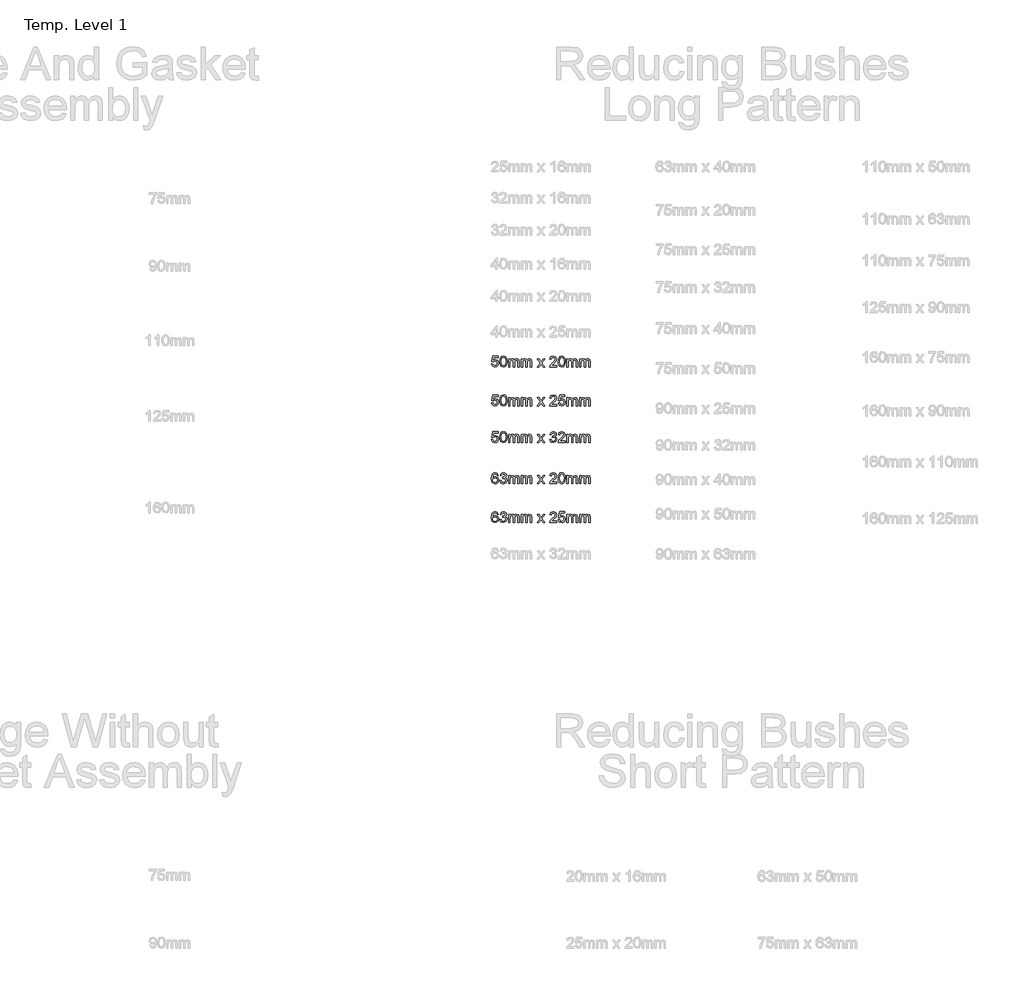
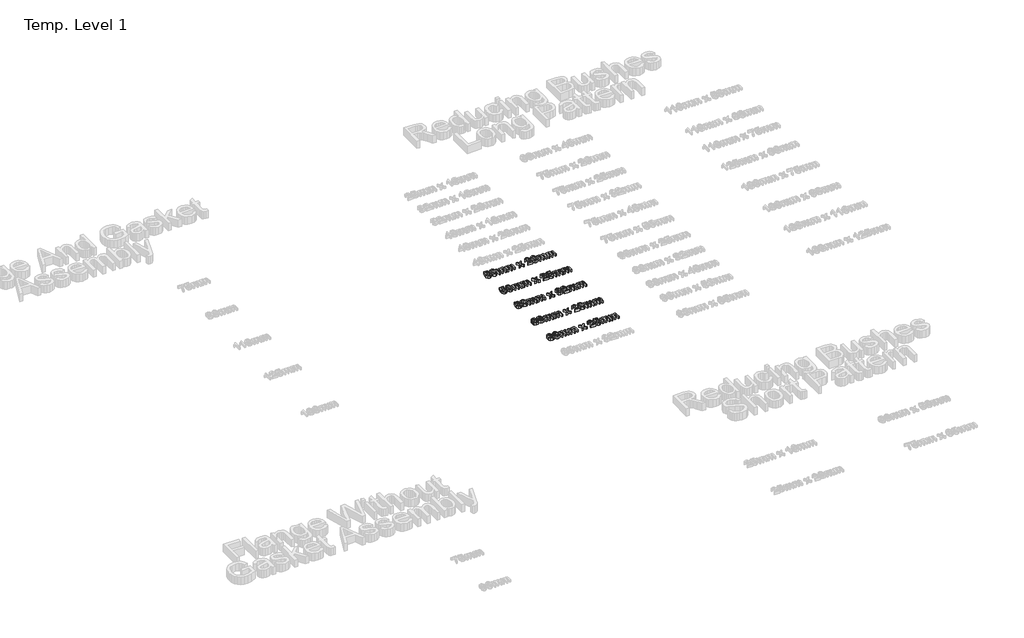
# One storey, part 36 of 62: 5 proxies.
"""IFC4 building model written with IfcOpenShell, lengths in millimetres."""

from ifc_helpers import new_model, si_unit, origin, origin_with_axes, place, context, project, spatial, polyline, outline, extrude, element, save

model = new_model("IFC4")

# Units and contexts
model_context = context("Model", 3, world=origin())
ifc_project = project(units=[si_unit("LENGTHUNIT", "METRE", prefix="MILLI")], contexts=[model_context])

# Site, building, storey
site = spatial("IfcSite", under=ifc_project)
building = spatial("IfcBuilding", under=site)
storey = spatial("IfcBuildingStorey", under=building, Name="Temp. Level 1", Elevation=0.0)

# Proxies
placement = place(None, origin())
element("IfcBuildingElementProxy", 1, Name="50mm Arial", ObjectType="50mm Arial", at=placement, inside=storey, context=model_context, shape_type="SweptSolid", body=[
    extrude(outline(polyline([(23339.3793416, -5257.447281), (23345.5331878, -5256.6780503), (23348.6341493, -5263.0181945), (23355.0644378, -5265.1395887), (23362.7807839, -5262.1888676), (23365.5331878, -5254.3583387), (23362.9550628, -5247.0506464), (23355.1605916, -5244.370358), (23349.7579474, -5245.4400695), (23346.3024185, -5248.2165118), (23340.1485724, -5247.447281), (23345.5331878, -5222.0626657), (23369.3793416, -5222.0626657), (23369.3793416, -5228.2165118), (23350.5091493, -5228.2165118), (23347.8769378, -5241.7742041), (23356.8793416, -5238.2165118), (23367.4021782, -5242.6275695), (23371.6870339, -5253.9737233), (23367.8288609, -5265.3919926), (23362.2879955, -5269.8180743), (23355.0403993, -5271.2934349), (23344.1810243, -5267.5013676), (23339.3793416, -5257.447281)])), origin_with_axes(), (0.0, 0.0, 1.0), 15.0),
    extrude(outline(polyline([(23377.0716493, -5246.3054541), (23378.8805435, -5232.1407907), (23384.2531397, -5223.9737233), (23393.2254955, -5221.2934349), (23400.4129955, -5222.8799733), (23405.3769378, -5227.4532907), (23408.2615532, -5234.7369445), (23409.3793416, -5246.3054541), (23407.5884762, -5260.4100214), (23402.2339089, -5268.5951176), (23393.2254955, -5271.2934349), (23381.9754955, -5266.6059349), (23378.2976109, -5258.2796128), (23377.0716493, -5246.3054541)]), holes=[polyline([(23383.2254955, -5246.2934349), (23386.1101109, -5261.5758868), (23393.2254955, -5265.1395887), (23400.3408801, -5261.5638676), (23403.2254955, -5246.2934349), (23400.4370339, -5231.1852618), (23393.1533801, -5227.447281), (23386.2062647, -5230.7405503), (23383.2254955, -5246.2934349)])]), origin_with_axes(), (0.0, 0.0, 1.0), 15.0),
    extrude(outline(polyline([(23416.3024185, -5270.5242041), (23416.3024185, -5234.370358), (23422.4562647, -5234.370358), (23422.4562647, -5240.3198772), (23426.6870339, -5235.4460791), (23432.7086685, -5233.6011272), (23438.8745339, -5235.4821368), (23442.263957, -5240.7525695), (23447.0656397, -5235.3889878), (23453.1293416, -5233.6011272), (23461.1762166, -5236.5758868), (23463.9947262, -5245.7405503), (23463.9947262, -5270.5242041), (23457.8408801, -5270.5242041), (23457.8408801, -5248.384781), (23457.2699666, -5243.2465599), (23455.2026589, -5240.7165118), (23451.6870339, -5239.7549733), (23445.6353512, -5242.2189157), (23443.2254955, -5250.1155503), (23443.2254955, -5270.5242041), (23437.0716493, -5270.5242041), (23437.0716493, -5247.6996849), (23435.6473705, -5241.7381464), (23430.9778993, -5239.7549733), (23426.4226109, -5241.0770887), (23423.3937647, -5244.947281), (23422.4562647, -5252.291031), (23422.4562647, -5270.5242041), (23416.3024185, -5270.5242041)])), origin_with_axes(), (0.0, 0.0, 1.0), 15.0),
    extrude(outline(polyline([(23473.2254955, -5270.5242041), (23473.2254955, -5234.370358), (23479.3793416, -5234.370358), (23479.3793416, -5240.3198772), (23483.6101109, -5235.4460791), (23489.6317455, -5233.6011272), (23495.7976109, -5235.4821368), (23499.1870339, -5240.7525695), (23503.9887166, -5235.3889878), (23510.0524185, -5233.6011272), (23518.0992935, -5236.5758868), (23520.9178032, -5245.7405503), (23520.9178032, -5270.5242041), (23514.763957, -5270.5242041), (23514.763957, -5248.384781), (23514.1930435, -5243.2465599), (23512.1257359, -5240.7165118), (23508.6101109, -5239.7549733), (23502.5584282, -5242.2189157), (23500.1485724, -5250.1155503), (23500.1485724, -5270.5242041), (23493.9947262, -5270.5242041), (23493.9947262, -5247.6996849), (23492.5704474, -5241.7381464), (23487.9009762, -5239.7549733), (23483.3456878, -5241.0770887), (23480.3168416, -5244.947281), (23479.3793416, -5252.291031), (23479.3793416, -5270.5242041), (23473.2254955, -5270.5242041)])), origin_with_axes(), (0.0, 0.0, 1.0), 15.0),
    extrude(outline(polyline([(23545.5331878, -5270.5242041), (23558.6822262, -5252.3511272), (23546.3024185, -5234.370358), (23553.7062647, -5234.370358), (23559.6798224, -5243.0242041), (23562.4682839, -5247.1107426), (23564.8841493, -5243.7693964), (23571.6870339, -5234.370358), (23579.0908801, -5234.370358), (23566.0860724, -5252.3511272), (23578.6101109, -5270.5242041), (23571.2062647, -5270.5242041), (23563.670207, -5259.5987233), (23562.2879955, -5257.603531), (23552.9370339, -5270.5242041), (23545.5331878, -5270.5242041)])), origin_with_axes(), (0.0, 0.0, 1.0), 15.0),
    extrude(outline(polyline([(23633.2254955, -5264.370358), (23633.2254955, -5270.5242041), (23600.9178032, -5270.5242041), (23601.5788609, -5266.2814157), (23605.3168416, -5259.7489637), (23613.0211685, -5252.6155503), (23623.6461685, -5242.3631464), (23626.3024185, -5235.3919926), (23623.7964089, -5229.7489637), (23617.2519378, -5227.447281), (23610.4310243, -5229.6948772), (23607.8408801, -5235.9088195), (23601.6870339, -5235.1395887), (23606.404582, -5224.839108), (23617.3841493, -5221.2934349), (23628.3997743, -5225.2357426), (23632.4562647, -5235.0193964), (23631.3625147, -5240.854733), (23627.7266974, -5246.8883868), (23618.9105916, -5255.3198772), (23611.8312647, -5261.2393483), (23609.0548224, -5264.370358), (23633.2254955, -5264.370358)])), origin_with_axes(), (0.0, 0.0, 1.0), 15.0),
    extrude(outline(polyline([(23639.3793416, -5246.3054541), (23641.1882359, -5232.1407907), (23646.560832, -5223.9737233), (23655.5331878, -5221.2934349), (23662.7206878, -5222.8799733), (23667.6846301, -5227.4532907), (23670.5692455, -5234.7369445), (23671.6870339, -5246.3054541), (23669.8961685, -5260.4100214), (23664.5416012, -5268.5951176), (23655.5331878, -5271.2934349), (23644.2831878, -5266.6059349), (23640.6053032, -5258.2796128), (23639.3793416, -5246.3054541)]), holes=[polyline([(23645.5331878, -5246.2934349), (23648.4178032, -5261.5758868), (23655.5331878, -5265.1395887), (23662.6485724, -5261.5638676), (23665.5331878, -5246.2934349), (23662.7447262, -5231.1852618), (23655.4610724, -5227.447281), (23648.513957, -5230.7405503), (23645.5331878, -5246.2934349)])]), origin_with_axes(), (0.0, 0.0, 1.0), 15.0),
    extrude(outline(polyline([(23678.6101109, -5270.5242041), (23678.6101109, -5234.370358), (23684.763957, -5234.370358), (23684.763957, -5240.3198772), (23688.9947262, -5235.4460791), (23695.0163609, -5233.6011272), (23701.1822262, -5235.4821368), (23704.5716493, -5240.7525695), (23709.373332, -5235.3889878), (23715.4370339, -5233.6011272), (23723.4839089, -5236.5758868), (23726.3024185, -5245.7405503), (23726.3024185, -5270.5242041), (23720.1485724, -5270.5242041), (23720.1485724, -5248.384781), (23719.5776589, -5243.2465599), (23717.5103512, -5240.7165118), (23713.9947262, -5239.7549733), (23707.9430435, -5242.2189157), (23705.5331878, -5250.1155503), (23705.5331878, -5270.5242041), (23699.3793416, -5270.5242041), (23699.3793416, -5247.6996849), (23697.9550628, -5241.7381464), (23693.2855916, -5239.7549733), (23688.7303032, -5241.0770887), (23685.701457, -5244.947281), (23684.763957, -5252.291031), (23684.763957, -5270.5242041), (23678.6101109, -5270.5242041)])), origin_with_axes(), (0.0, 0.0, 1.0), 15.0),
    extrude(outline(polyline([(23735.5331878, -5270.5242041), (23735.5331878, -5234.370358), (23741.6870339, -5234.370358), (23741.6870339, -5240.3198772), (23745.9178032, -5235.4460791), (23751.9394378, -5233.6011272), (23758.1053032, -5235.4821368), (23761.4947262, -5240.7525695), (23766.2964089, -5235.3889878), (23772.3601109, -5233.6011272), (23780.4069859, -5236.5758868), (23783.2254955, -5245.7405503), (23783.2254955, -5270.5242041), (23777.0716493, -5270.5242041), (23777.0716493, -5248.384781), (23776.5007359, -5243.2465599), (23774.4334282, -5240.7165118), (23770.9178032, -5239.7549733), (23764.8661205, -5242.2189157), (23762.4562647, -5250.1155503), (23762.4562647, -5270.5242041), (23756.3024185, -5270.5242041), (23756.3024185, -5247.6996849), (23754.8781397, -5241.7381464), (23750.2086685, -5239.7549733), (23745.6533801, -5241.0770887), (23742.6245339, -5244.947281), (23741.6870339, -5252.291031), (23741.6870339, -5270.5242041), (23735.5331878, -5270.5242041)])), origin_with_axes(), (0.0, 0.0, 1.0), 15.0),
])
element("IfcBuildingElementProxy", 2, Name="50mm Arial", ObjectType="50mm Arial", at=placement, inside=storey, context=model_context, shape_type="SweptSolid", body=[
    extrude(outline(polyline([(23339.3793416, -5432.447281), (23345.5331878, -5431.6780503), (23348.6341493, -5438.0181945), (23355.0644378, -5440.1395887), (23362.7807839, -5437.1888676), (23365.5331878, -5429.3583387), (23362.9550628, -5422.0506464), (23355.1605916, -5419.370358), (23349.7579474, -5420.4400695), (23346.3024185, -5423.2165118), (23340.1485724, -5422.447281), (23345.5331878, -5397.0626657), (23369.3793416, -5397.0626657), (23369.3793416, -5403.2165118), (23350.5091493, -5403.2165118), (23347.8769378, -5416.7742041), (23356.8793416, -5413.2165118), (23367.4021782, -5417.6275695), (23371.6870339, -5428.9737233), (23367.8288609, -5440.3919926), (23362.2879955, -5444.8180743), (23355.0403993, -5446.2934349), (23344.1810243, -5442.5013676), (23339.3793416, -5432.447281)])), origin_with_axes(), (0.0, 0.0, 1.0), 15.0),
    extrude(outline(polyline([(23377.0716493, -5421.3054541), (23378.8805435, -5407.1407907), (23384.2531397, -5398.9737233), (23393.2254955, -5396.2934349), (23400.4129955, -5397.8799733), (23405.3769378, -5402.4532907), (23408.2615532, -5409.7369445), (23409.3793416, -5421.3054541), (23407.5884762, -5435.4100214), (23402.2339089, -5443.5951176), (23393.2254955, -5446.2934349), (23381.9754955, -5441.6059349), (23378.2976109, -5433.2796128), (23377.0716493, -5421.3054541)]), holes=[polyline([(23383.2254955, -5421.2934349), (23386.1101109, -5436.5758868), (23393.2254955, -5440.1395887), (23400.3408801, -5436.5638676), (23403.2254955, -5421.2934349), (23400.4370339, -5406.1852618), (23393.1533801, -5402.447281), (23386.2062647, -5405.7405503), (23383.2254955, -5421.2934349)])]), origin_with_axes(), (0.0, 0.0, 1.0), 15.0),
    extrude(outline(polyline([(23416.3024185, -5445.5242041), (23416.3024185, -5409.370358), (23422.4562647, -5409.370358), (23422.4562647, -5415.3198772), (23426.6870339, -5410.4460791), (23432.7086685, -5408.6011272), (23438.8745339, -5410.4821368), (23442.263957, -5415.7525695), (23447.0656397, -5410.3889878), (23453.1293416, -5408.6011272), (23461.1762166, -5411.5758868), (23463.9947262, -5420.7405503), (23463.9947262, -5445.5242041), (23457.8408801, -5445.5242041), (23457.8408801, -5423.384781), (23457.2699666, -5418.2465599), (23455.2026589, -5415.7165118), (23451.6870339, -5414.7549733), (23445.6353512, -5417.2189157), (23443.2254955, -5425.1155503), (23443.2254955, -5445.5242041), (23437.0716493, -5445.5242041), (23437.0716493, -5422.6996849), (23435.6473705, -5416.7381464), (23430.9778993, -5414.7549733), (23426.4226109, -5416.0770887), (23423.3937647, -5419.947281), (23422.4562647, -5427.291031), (23422.4562647, -5445.5242041), (23416.3024185, -5445.5242041)])), origin_with_axes(), (0.0, 0.0, 1.0), 15.0),
    extrude(outline(polyline([(23473.2254955, -5445.5242041), (23473.2254955, -5409.370358), (23479.3793416, -5409.370358), (23479.3793416, -5415.3198772), (23483.6101109, -5410.4460791), (23489.6317455, -5408.6011272), (23495.7976109, -5410.4821368), (23499.1870339, -5415.7525695), (23503.9887166, -5410.3889878), (23510.0524185, -5408.6011272), (23518.0992935, -5411.5758868), (23520.9178032, -5420.7405503), (23520.9178032, -5445.5242041), (23514.763957, -5445.5242041), (23514.763957, -5423.384781), (23514.1930435, -5418.2465599), (23512.1257359, -5415.7165118), (23508.6101109, -5414.7549733), (23502.5584282, -5417.2189157), (23500.1485724, -5425.1155503), (23500.1485724, -5445.5242041), (23493.9947262, -5445.5242041), (23493.9947262, -5422.6996849), (23492.5704474, -5416.7381464), (23487.9009762, -5414.7549733), (23483.3456878, -5416.0770887), (23480.3168416, -5419.947281), (23479.3793416, -5427.291031), (23479.3793416, -5445.5242041), (23473.2254955, -5445.5242041)])), origin_with_axes(), (0.0, 0.0, 1.0), 15.0),
    extrude(outline(polyline([(23545.5331878, -5445.5242041), (23558.6822262, -5427.3511272), (23546.3024185, -5409.370358), (23553.7062647, -5409.370358), (23559.6798224, -5418.0242041), (23562.4682839, -5422.1107426), (23564.8841493, -5418.7693964), (23571.6870339, -5409.370358), (23579.0908801, -5409.370358), (23566.0860724, -5427.3511272), (23578.6101109, -5445.5242041), (23571.2062647, -5445.5242041), (23563.670207, -5434.5987233), (23562.2879955, -5432.603531), (23552.9370339, -5445.5242041), (23545.5331878, -5445.5242041)])), origin_with_axes(), (0.0, 0.0, 1.0), 15.0),
    extrude(outline(polyline([(23633.2254955, -5439.370358), (23633.2254955, -5445.5242041), (23600.9178032, -5445.5242041), (23601.5788609, -5441.2814157), (23605.3168416, -5434.7489637), (23613.0211685, -5427.6155503), (23623.6461685, -5417.3631464), (23626.3024185, -5410.3919926), (23623.7964089, -5404.7489637), (23617.2519378, -5402.447281), (23610.4310243, -5404.6948772), (23607.8408801, -5410.9088195), (23601.6870339, -5410.1395887), (23606.404582, -5399.839108), (23617.3841493, -5396.2934349), (23628.3997743, -5400.2357426), (23632.4562647, -5410.0193964), (23631.3625147, -5415.854733), (23627.7266974, -5421.8883868), (23618.9105916, -5430.3198772), (23611.8312647, -5436.2393483), (23609.0548224, -5439.370358), (23633.2254955, -5439.370358)])), origin_with_axes(), (0.0, 0.0, 1.0), 15.0),
    extrude(outline(polyline([(23639.3793416, -5432.447281), (23645.5331878, -5431.6780503), (23648.6341493, -5438.0181945), (23655.0644378, -5440.1395887), (23662.7807839, -5437.1888676), (23665.5331878, -5429.3583387), (23662.9550628, -5422.0506464), (23655.1605916, -5419.370358), (23649.7579474, -5420.4400695), (23646.3024185, -5423.2165118), (23640.1485724, -5422.447281), (23645.5331878, -5397.0626657), (23669.3793416, -5397.0626657), (23669.3793416, -5403.2165118), (23650.5091493, -5403.2165118), (23647.8769378, -5416.7742041), (23656.8793416, -5413.2165118), (23667.4021782, -5417.6275695), (23671.6870339, -5428.9737233), (23667.8288609, -5440.3919926), (23662.2879955, -5444.8180743), (23655.0403993, -5446.2934349), (23644.1810243, -5442.5013676), (23639.3793416, -5432.447281)])), origin_with_axes(), (0.0, 0.0, 1.0), 15.0),
    extrude(outline(polyline([(23678.6101109, -5445.5242041), (23678.6101109, -5409.370358), (23684.763957, -5409.370358), (23684.763957, -5415.3198772), (23688.9947262, -5410.4460791), (23695.0163609, -5408.6011272), (23701.1822262, -5410.4821368), (23704.5716493, -5415.7525695), (23709.373332, -5410.3889878), (23715.4370339, -5408.6011272), (23723.4839089, -5411.5758868), (23726.3024185, -5420.7405503), (23726.3024185, -5445.5242041), (23720.1485724, -5445.5242041), (23720.1485724, -5423.384781), (23719.5776589, -5418.2465599), (23717.5103512, -5415.7165118), (23713.9947262, -5414.7549733), (23707.9430435, -5417.2189157), (23705.5331878, -5425.1155503), (23705.5331878, -5445.5242041), (23699.3793416, -5445.5242041), (23699.3793416, -5422.6996849), (23697.9550628, -5416.7381464), (23693.2855916, -5414.7549733), (23688.7303032, -5416.0770887), (23685.701457, -5419.947281), (23684.763957, -5427.291031), (23684.763957, -5445.5242041), (23678.6101109, -5445.5242041)])), origin_with_axes(), (0.0, 0.0, 1.0), 15.0),
    extrude(outline(polyline([(23735.5331878, -5445.5242041), (23735.5331878, -5409.370358), (23741.6870339, -5409.370358), (23741.6870339, -5415.3198772), (23745.9178032, -5410.4460791), (23751.9394378, -5408.6011272), (23758.1053032, -5410.4821368), (23761.4947262, -5415.7525695), (23766.2964089, -5410.3889878), (23772.3601109, -5408.6011272), (23780.4069859, -5411.5758868), (23783.2254955, -5420.7405503), (23783.2254955, -5445.5242041), (23777.0716493, -5445.5242041), (23777.0716493, -5423.384781), (23776.5007359, -5418.2465599), (23774.4334282, -5415.7165118), (23770.9178032, -5414.7549733), (23764.8661205, -5417.2189157), (23762.4562647, -5425.1155503), (23762.4562647, -5445.5242041), (23756.3024185, -5445.5242041), (23756.3024185, -5422.6996849), (23754.8781397, -5416.7381464), (23750.2086685, -5414.7549733), (23745.6533801, -5416.0770887), (23742.6245339, -5419.947281), (23741.6870339, -5427.291031), (23741.6870339, -5445.5242041), (23735.5331878, -5445.5242041)])), origin_with_axes(), (0.0, 0.0, 1.0), 15.0),
])
element("IfcBuildingElementProxy", 3, Name="50mm Arial", ObjectType="50mm Arial", at=placement, inside=storey, context=model_context, shape_type="SweptSolid", body=[
    extrude(outline(polyline([(23339.3793416, -5597.447281), (23345.5331878, -5596.6780503), (23348.6341493, -5603.0181945), (23355.0644378, -5605.1395887), (23362.7807839, -5602.1888676), (23365.5331878, -5594.3583387), (23362.9550628, -5587.0506464), (23355.1605916, -5584.370358), (23349.7579474, -5585.4400695), (23346.3024185, -5588.2165118), (23340.1485724, -5587.447281), (23345.5331878, -5562.0626657), (23369.3793416, -5562.0626657), (23369.3793416, -5568.2165118), (23350.5091493, -5568.2165118), (23347.8769378, -5581.7742041), (23356.8793416, -5578.2165118), (23367.4021782, -5582.6275695), (23371.6870339, -5593.9737233), (23367.8288609, -5605.3919926), (23362.2879955, -5609.8180743), (23355.0403993, -5611.2934349), (23344.1810243, -5607.5013676), (23339.3793416, -5597.447281)])), origin_with_axes(), (0.0, 0.0, 1.0), 15.0),
    extrude(outline(polyline([(23377.0716493, -5586.3054541), (23378.8805435, -5572.1407907), (23384.2531397, -5563.9737233), (23393.2254955, -5561.2934349), (23400.4129955, -5562.8799733), (23405.3769378, -5567.4532907), (23408.2615532, -5574.7369445), (23409.3793416, -5586.3054541), (23407.5884762, -5600.4100214), (23402.2339089, -5608.5951176), (23393.2254955, -5611.2934349), (23381.9754955, -5606.6059349), (23378.2976109, -5598.2796128), (23377.0716493, -5586.3054541)]), holes=[polyline([(23383.2254955, -5586.2934349), (23386.1101109, -5601.5758868), (23393.2254955, -5605.1395887), (23400.3408801, -5601.5638676), (23403.2254955, -5586.2934349), (23400.4370339, -5571.1852618), (23393.1533801, -5567.447281), (23386.2062647, -5570.7405503), (23383.2254955, -5586.2934349)])]), origin_with_axes(), (0.0, 0.0, 1.0), 15.0),
    extrude(outline(polyline([(23416.3024185, -5610.5242041), (23416.3024185, -5574.370358), (23422.4562647, -5574.370358), (23422.4562647, -5580.3198772), (23426.6870339, -5575.4460791), (23432.7086685, -5573.6011272), (23438.8745339, -5575.4821368), (23442.263957, -5580.7525695), (23447.0656397, -5575.3889878), (23453.1293416, -5573.6011272), (23461.1762166, -5576.5758868), (23463.9947262, -5585.7405503), (23463.9947262, -5610.5242041), (23457.8408801, -5610.5242041), (23457.8408801, -5588.384781), (23457.2699666, -5583.2465599), (23455.2026589, -5580.7165118), (23451.6870339, -5579.7549733), (23445.6353512, -5582.2189157), (23443.2254955, -5590.1155503), (23443.2254955, -5610.5242041), (23437.0716493, -5610.5242041), (23437.0716493, -5587.6996849), (23435.6473705, -5581.7381464), (23430.9778993, -5579.7549733), (23426.4226109, -5581.0770887), (23423.3937647, -5584.947281), (23422.4562647, -5592.291031), (23422.4562647, -5610.5242041), (23416.3024185, -5610.5242041)])), origin_with_axes(), (0.0, 0.0, 1.0), 15.0),
    extrude(outline(polyline([(23473.2254955, -5610.5242041), (23473.2254955, -5574.370358), (23479.3793416, -5574.370358), (23479.3793416, -5580.3198772), (23483.6101109, -5575.4460791), (23489.6317455, -5573.6011272), (23495.7976109, -5575.4821368), (23499.1870339, -5580.7525695), (23503.9887166, -5575.3889878), (23510.0524185, -5573.6011272), (23518.0992935, -5576.5758868), (23520.9178032, -5585.7405503), (23520.9178032, -5610.5242041), (23514.763957, -5610.5242041), (23514.763957, -5588.384781), (23514.1930435, -5583.2465599), (23512.1257359, -5580.7165118), (23508.6101109, -5579.7549733), (23502.5584282, -5582.2189157), (23500.1485724, -5590.1155503), (23500.1485724, -5610.5242041), (23493.9947262, -5610.5242041), (23493.9947262, -5587.6996849), (23492.5704474, -5581.7381464), (23487.9009762, -5579.7549733), (23483.3456878, -5581.0770887), (23480.3168416, -5584.947281), (23479.3793416, -5592.291031), (23479.3793416, -5610.5242041), (23473.2254955, -5610.5242041)])), origin_with_axes(), (0.0, 0.0, 1.0), 15.0),
    extrude(outline(polyline([(23545.5331878, -5610.5242041), (23558.6822262, -5592.3511272), (23546.3024185, -5574.370358), (23553.7062647, -5574.370358), (23559.6798224, -5583.0242041), (23562.4682839, -5587.1107426), (23564.8841493, -5583.7693964), (23571.6870339, -5574.370358), (23579.0908801, -5574.370358), (23566.0860724, -5592.3511272), (23578.6101109, -5610.5242041), (23571.2062647, -5610.5242041), (23563.670207, -5599.5987233), (23562.2879955, -5597.603531), (23552.9370339, -5610.5242041), (23545.5331878, -5610.5242041)])), origin_with_axes(), (0.0, 0.0, 1.0), 15.0),
    extrude(outline(polyline([(23601.6870339, -5597.447281), (23607.8408801, -5596.6780503), (23611.2363128, -5603.1564157), (23617.5884762, -5605.1395887), (23625.0644378, -5602.4112233), (23627.8408801, -5595.6564157), (23625.0884762, -5589.292233), (23618.0932839, -5586.7742041), (23613.7783801, -5587.447281), (23614.4634762, -5581.2934349), (23622.4322262, -5579.5987233), (23625.5331878, -5574.166031), (23623.2855916, -5569.3523291), (23617.4923224, -5567.447281), (23611.6269378, -5569.370358), (23608.6101109, -5575.1395887), (23602.4562647, -5574.370358), (23607.4923224, -5564.7189157), (23617.2759762, -5561.2934349), (23624.6978512, -5562.9821368), (23629.8901589, -5567.5975214), (23631.6870339, -5573.8054541), (23629.9803032, -5579.478531), (23624.9322262, -5583.5530503), (23631.638957, -5587.759781), (23633.9947262, -5595.7645887), (23629.2831878, -5606.7742041), (23617.3721301, -5611.2934349), (23606.5788609, -5607.4352618), (23601.6870339, -5597.447281)])), origin_with_axes(), (0.0, 0.0, 1.0), 15.0),
    extrude(outline(polyline([(23670.9178032, -5604.370358), (23670.9178032, -5610.5242041), (23638.6101109, -5610.5242041), (23639.2711685, -5606.2814157), (23643.0091493, -5599.7489637), (23650.7134762, -5592.6155503), (23661.3384762, -5582.3631464), (23663.9947262, -5575.3919926), (23661.4887166, -5569.7489637), (23654.9442455, -5567.447281), (23648.123332, -5569.6948772), (23645.5331878, -5575.9088195), (23639.3793416, -5575.1395887), (23644.0968897, -5564.839108), (23655.076457, -5561.2934349), (23666.092082, -5565.2357426), (23670.1485724, -5575.0193964), (23669.0548224, -5580.854733), (23665.4190051, -5586.8883868), (23656.6028993, -5595.3198772), (23649.5235724, -5601.2393483), (23646.7471301, -5604.370358), (23670.9178032, -5604.370358)])), origin_with_axes(), (0.0, 0.0, 1.0), 15.0),
    extrude(outline(polyline([(23678.6101109, -5610.5242041), (23678.6101109, -5574.370358), (23684.763957, -5574.370358), (23684.763957, -5580.3198772), (23688.9947262, -5575.4460791), (23695.0163609, -5573.6011272), (23701.1822262, -5575.4821368), (23704.5716493, -5580.7525695), (23709.373332, -5575.3889878), (23715.4370339, -5573.6011272), (23723.4839089, -5576.5758868), (23726.3024185, -5585.7405503), (23726.3024185, -5610.5242041), (23720.1485724, -5610.5242041), (23720.1485724, -5588.384781), (23719.5776589, -5583.2465599), (23717.5103512, -5580.7165118), (23713.9947262, -5579.7549733), (23707.9430435, -5582.2189157), (23705.5331878, -5590.1155503), (23705.5331878, -5610.5242041), (23699.3793416, -5610.5242041), (23699.3793416, -5587.6996849), (23697.9550628, -5581.7381464), (23693.2855916, -5579.7549733), (23688.7303032, -5581.0770887), (23685.701457, -5584.947281), (23684.763957, -5592.291031), (23684.763957, -5610.5242041), (23678.6101109, -5610.5242041)])), origin_with_axes(), (0.0, 0.0, 1.0), 15.0),
    extrude(outline(polyline([(23735.5331878, -5610.5242041), (23735.5331878, -5574.370358), (23741.6870339, -5574.370358), (23741.6870339, -5580.3198772), (23745.9178032, -5575.4460791), (23751.9394378, -5573.6011272), (23758.1053032, -5575.4821368), (23761.4947262, -5580.7525695), (23766.2964089, -5575.3889878), (23772.3601109, -5573.6011272), (23780.4069859, -5576.5758868), (23783.2254955, -5585.7405503), (23783.2254955, -5610.5242041), (23777.0716493, -5610.5242041), (23777.0716493, -5588.384781), (23776.5007359, -5583.2465599), (23774.4334282, -5580.7165118), (23770.9178032, -5579.7549733), (23764.8661205, -5582.2189157), (23762.4562647, -5590.1155503), (23762.4562647, -5610.5242041), (23756.3024185, -5610.5242041), (23756.3024185, -5587.6996849), (23754.8781397, -5581.7381464), (23750.2086685, -5579.7549733), (23745.6533801, -5581.0770887), (23742.6245339, -5584.947281), (23741.6870339, -5592.291031), (23741.6870339, -5610.5242041), (23735.5331878, -5610.5242041)])), origin_with_axes(), (0.0, 0.0, 1.0), 15.0),
])
element("IfcBuildingElementProxy", 4, Name="50mm Arial", ObjectType="50mm Arial", at=placement, inside=storey, context=model_context, shape_type="SweptSolid", body=[
    extrude(outline(polyline([(23370.9178032, -5759.370358), (23364.763957, -5760.1395887), (23362.4322262, -5755.0073772), (23356.2663609, -5752.447281), (23350.7134762, -5753.9376657), (23346.5127551, -5759.5326176), (23344.763957, -5770.5001657), (23350.1906397, -5765.5903099), (23356.9153993, -5763.9857426), (23367.3721301, -5768.3727618), (23371.6870339, -5779.7068964), (23369.6557839, -5788.198483), (23364.0668416, -5794.2080983), (23356.0019378, -5796.2934349), (23343.4598705, -5790.7645887), (23339.8225508, -5783.4448772), (23338.6101109, -5772.5434349), (23339.9562647, -5760.2868243), (23343.9947262, -5751.9064157), (23349.5085484, -5747.6966801), (23356.6509762, -5746.2934349), (23366.3745339, -5749.7669926), (23370.9178032, -5759.370358)]), holes=[polyline([(23344.763957, -5779.6107426), (23346.1882359, -5784.9412714), (23349.9742935, -5788.8114637), (23355.5211685, -5790.1395887), (23362.7747743, -5787.3871849), (23365.5331878, -5779.9112233), (23362.810832, -5772.7537714), (23355.2687647, -5770.1395887), (23347.8228512, -5772.7537714), (23344.763957, -5779.6107426)])]), origin_with_axes(), (0.0, 0.0, 1.0), 15.0),
    extrude(outline(polyline([(23377.0716493, -5782.447281), (23383.2254955, -5781.6780503), (23386.6209282, -5788.1564157), (23392.9730916, -5790.1395887), (23400.4490532, -5787.4112233), (23403.2254955, -5780.6564157), (23400.4730916, -5774.292233), (23393.4778993, -5771.7742041), (23389.1629955, -5772.447281), (23389.8480916, -5766.2934349), (23397.8168416, -5764.5987233), (23400.9178032, -5759.166031), (23398.670207, -5754.3523291), (23392.8769378, -5752.447281), (23387.0115532, -5754.370358), (23383.9947262, -5760.1395887), (23377.8408801, -5759.370358), (23382.8769378, -5749.7189157), (23392.6605916, -5746.2934349), (23400.0824666, -5747.9821368), (23405.2747743, -5752.5975214), (23407.0716493, -5758.8054541), (23405.3649185, -5764.478531), (23400.3168416, -5768.5530503), (23407.0235724, -5772.759781), (23409.3793416, -5780.7645887), (23404.6678032, -5791.7742041), (23392.7567455, -5796.2934349), (23381.9634762, -5792.4352618), (23377.0716493, -5782.447281)])), origin_with_axes(), (0.0, 0.0, 1.0), 15.0),
    extrude(outline(polyline([(23416.3024185, -5795.5242041), (23416.3024185, -5759.370358), (23422.4562647, -5759.370358), (23422.4562647, -5765.3198772), (23426.6870339, -5760.4460791), (23432.7086685, -5758.6011272), (23438.8745339, -5760.4821368), (23442.263957, -5765.7525695), (23447.0656397, -5760.3889878), (23453.1293416, -5758.6011272), (23461.1762166, -5761.5758868), (23463.9947262, -5770.7405503), (23463.9947262, -5795.5242041), (23457.8408801, -5795.5242041), (23457.8408801, -5773.384781), (23457.2699666, -5768.2465599), (23455.2026589, -5765.7165118), (23451.6870339, -5764.7549733), (23445.6353512, -5767.2189157), (23443.2254955, -5775.1155503), (23443.2254955, -5795.5242041), (23437.0716493, -5795.5242041), (23437.0716493, -5772.6996849), (23435.6473705, -5766.7381464), (23430.9778993, -5764.7549733), (23426.4226109, -5766.0770887), (23423.3937647, -5769.947281), (23422.4562647, -5777.291031), (23422.4562647, -5795.5242041), (23416.3024185, -5795.5242041)])), origin_with_axes(), (0.0, 0.0, 1.0), 15.0),
    extrude(outline(polyline([(23473.2254955, -5795.5242041), (23473.2254955, -5759.370358), (23479.3793416, -5759.370358), (23479.3793416, -5765.3198772), (23483.6101109, -5760.4460791), (23489.6317455, -5758.6011272), (23495.7976109, -5760.4821368), (23499.1870339, -5765.7525695), (23503.9887166, -5760.3889878), (23510.0524185, -5758.6011272), (23518.0992935, -5761.5758868), (23520.9178032, -5770.7405503), (23520.9178032, -5795.5242041), (23514.763957, -5795.5242041), (23514.763957, -5773.384781), (23514.1930435, -5768.2465599), (23512.1257359, -5765.7165118), (23508.6101109, -5764.7549733), (23502.5584282, -5767.2189157), (23500.1485724, -5775.1155503), (23500.1485724, -5795.5242041), (23493.9947262, -5795.5242041), (23493.9947262, -5772.6996849), (23492.5704474, -5766.7381464), (23487.9009762, -5764.7549733), (23483.3456878, -5766.0770887), (23480.3168416, -5769.947281), (23479.3793416, -5777.291031), (23479.3793416, -5795.5242041), (23473.2254955, -5795.5242041)])), origin_with_axes(), (0.0, 0.0, 1.0), 15.0),
    extrude(outline(polyline([(23545.5331878, -5795.5242041), (23558.6822262, -5777.3511272), (23546.3024185, -5759.370358), (23553.7062647, -5759.370358), (23559.6798224, -5768.0242041), (23562.4682839, -5772.1107426), (23564.8841493, -5768.7693964), (23571.6870339, -5759.370358), (23579.0908801, -5759.370358), (23566.0860724, -5777.3511272), (23578.6101109, -5795.5242041), (23571.2062647, -5795.5242041), (23563.670207, -5784.5987233), (23562.2879955, -5782.603531), (23552.9370339, -5795.5242041), (23545.5331878, -5795.5242041)])), origin_with_axes(), (0.0, 0.0, 1.0), 15.0),
    extrude(outline(polyline([(23633.2254955, -5789.370358), (23633.2254955, -5795.5242041), (23600.9178032, -5795.5242041), (23601.5788609, -5791.2814157), (23605.3168416, -5784.7489637), (23613.0211685, -5777.6155503), (23623.6461685, -5767.3631464), (23626.3024185, -5760.3919926), (23623.7964089, -5754.7489637), (23617.2519378, -5752.447281), (23610.4310243, -5754.6948772), (23607.8408801, -5760.9088195), (23601.6870339, -5760.1395887), (23606.404582, -5749.839108), (23617.3841493, -5746.2934349), (23628.3997743, -5750.2357426), (23632.4562647, -5760.0193964), (23631.3625147, -5765.854733), (23627.7266974, -5771.8883868), (23618.9105916, -5780.3198772), (23611.8312647, -5786.2393483), (23609.0548224, -5789.370358), (23633.2254955, -5789.370358)])), origin_with_axes(), (0.0, 0.0, 1.0), 15.0),
    extrude(outline(polyline([(23639.3793416, -5771.3054541), (23641.1882359, -5757.1407907), (23646.560832, -5748.9737233), (23655.5331878, -5746.2934349), (23662.7206878, -5747.8799733), (23667.6846301, -5752.4532907), (23670.5692455, -5759.7369445), (23671.6870339, -5771.3054541), (23669.8961685, -5785.4100214), (23664.5416012, -5793.5951176), (23655.5331878, -5796.2934349), (23644.2831878, -5791.6059349), (23640.6053032, -5783.2796128), (23639.3793416, -5771.3054541)]), holes=[polyline([(23645.5331878, -5771.2934349), (23648.4178032, -5786.5758868), (23655.5331878, -5790.1395887), (23662.6485724, -5786.5638676), (23665.5331878, -5771.2934349), (23662.7447262, -5756.1852618), (23655.4610724, -5752.447281), (23648.513957, -5755.7405503), (23645.5331878, -5771.2934349)])]), origin_with_axes(), (0.0, 0.0, 1.0), 15.0),
    extrude(outline(polyline([(23678.6101109, -5795.5242041), (23678.6101109, -5759.370358), (23684.763957, -5759.370358), (23684.763957, -5765.3198772), (23688.9947262, -5760.4460791), (23695.0163609, -5758.6011272), (23701.1822262, -5760.4821368), (23704.5716493, -5765.7525695), (23709.373332, -5760.3889878), (23715.4370339, -5758.6011272), (23723.4839089, -5761.5758868), (23726.3024185, -5770.7405503), (23726.3024185, -5795.5242041), (23720.1485724, -5795.5242041), (23720.1485724, -5773.384781), (23719.5776589, -5768.2465599), (23717.5103512, -5765.7165118), (23713.9947262, -5764.7549733), (23707.9430435, -5767.2189157), (23705.5331878, -5775.1155503), (23705.5331878, -5795.5242041), (23699.3793416, -5795.5242041), (23699.3793416, -5772.6996849), (23697.9550628, -5766.7381464), (23693.2855916, -5764.7549733), (23688.7303032, -5766.0770887), (23685.701457, -5769.947281), (23684.763957, -5777.291031), (23684.763957, -5795.5242041), (23678.6101109, -5795.5242041)])), origin_with_axes(), (0.0, 0.0, 1.0), 15.0),
    extrude(outline(polyline([(23735.5331878, -5795.5242041), (23735.5331878, -5759.370358), (23741.6870339, -5759.370358), (23741.6870339, -5765.3198772), (23745.9178032, -5760.4460791), (23751.9394378, -5758.6011272), (23758.1053032, -5760.4821368), (23761.4947262, -5765.7525695), (23766.2964089, -5760.3889878), (23772.3601109, -5758.6011272), (23780.4069859, -5761.5758868), (23783.2254955, -5770.7405503), (23783.2254955, -5795.5242041), (23777.0716493, -5795.5242041), (23777.0716493, -5773.384781), (23776.5007359, -5768.2465599), (23774.4334282, -5765.7165118), (23770.9178032, -5764.7549733), (23764.8661205, -5767.2189157), (23762.4562647, -5775.1155503), (23762.4562647, -5795.5242041), (23756.3024185, -5795.5242041), (23756.3024185, -5772.6996849), (23754.8781397, -5766.7381464), (23750.2086685, -5764.7549733), (23745.6533801, -5766.0770887), (23742.6245339, -5769.947281), (23741.6870339, -5777.291031), (23741.6870339, -5795.5242041), (23735.5331878, -5795.5242041)])), origin_with_axes(), (0.0, 0.0, 1.0), 15.0),
])
element("IfcBuildingElementProxy", 5, Name="50mm Arial", ObjectType="50mm Arial", at=placement, inside=storey, context=model_context, shape_type="SweptSolid", body=[
    extrude(outline(polyline([(23370.9178032, -5934.370358), (23364.763957, -5935.1395887), (23362.4322262, -5930.0073772), (23356.2663609, -5927.447281), (23350.7134762, -5928.9376657), (23346.5127551, -5934.5326176), (23344.763957, -5945.5001657), (23350.1906397, -5940.5903099), (23356.9153993, -5938.9857426), (23367.3721301, -5943.3727618), (23371.6870339, -5954.7068964), (23369.6557839, -5963.198483), (23364.0668416, -5969.2080983), (23356.0019378, -5971.2934349), (23343.4598705, -5965.7645887), (23339.8225508, -5958.4448772), (23338.6101109, -5947.5434349), (23339.9562647, -5935.2868243), (23343.9947262, -5926.9064157), (23349.5085484, -5922.6966801), (23356.6509762, -5921.2934349), (23366.3745339, -5924.7669926), (23370.9178032, -5934.370358)]), holes=[polyline([(23344.763957, -5954.6107426), (23346.1882359, -5959.9412714), (23349.9742935, -5963.8114637), (23355.5211685, -5965.1395887), (23362.7747743, -5962.3871849), (23365.5331878, -5954.9112233), (23362.810832, -5947.7537714), (23355.2687647, -5945.1395887), (23347.8228512, -5947.7537714), (23344.763957, -5954.6107426)])]), origin_with_axes(), (0.0, 0.0, 1.0), 15.0),
    extrude(outline(polyline([(23377.0716493, -5957.447281), (23383.2254955, -5956.6780503), (23386.6209282, -5963.1564157), (23392.9730916, -5965.1395887), (23400.4490532, -5962.4112233), (23403.2254955, -5955.6564157), (23400.4730916, -5949.292233), (23393.4778993, -5946.7742041), (23389.1629955, -5947.447281), (23389.8480916, -5941.2934349), (23397.8168416, -5939.5987233), (23400.9178032, -5934.166031), (23398.670207, -5929.3523291), (23392.8769378, -5927.447281), (23387.0115532, -5929.370358), (23383.9947262, -5935.1395887), (23377.8408801, -5934.370358), (23382.8769378, -5924.7189157), (23392.6605916, -5921.2934349), (23400.0824666, -5922.9821368), (23405.2747743, -5927.5975214), (23407.0716493, -5933.8054541), (23405.3649185, -5939.478531), (23400.3168416, -5943.5530503), (23407.0235724, -5947.759781), (23409.3793416, -5955.7645887), (23404.6678032, -5966.7742041), (23392.7567455, -5971.2934349), (23381.9634762, -5967.4352618), (23377.0716493, -5957.447281)])), origin_with_axes(), (0.0, 0.0, 1.0), 15.0),
    extrude(outline(polyline([(23416.3024185, -5970.5242041), (23416.3024185, -5934.370358), (23422.4562647, -5934.370358), (23422.4562647, -5940.3198772), (23426.6870339, -5935.4460791), (23432.7086685, -5933.6011272), (23438.8745339, -5935.4821368), (23442.263957, -5940.7525695), (23447.0656397, -5935.3889878), (23453.1293416, -5933.6011272), (23461.1762166, -5936.5758868), (23463.9947262, -5945.7405503), (23463.9947262, -5970.5242041), (23457.8408801, -5970.5242041), (23457.8408801, -5948.384781), (23457.2699666, -5943.2465599), (23455.2026589, -5940.7165118), (23451.6870339, -5939.7549733), (23445.6353512, -5942.2189157), (23443.2254955, -5950.1155503), (23443.2254955, -5970.5242041), (23437.0716493, -5970.5242041), (23437.0716493, -5947.6996849), (23435.6473705, -5941.7381464), (23430.9778993, -5939.7549733), (23426.4226109, -5941.0770887), (23423.3937647, -5944.947281), (23422.4562647, -5952.291031), (23422.4562647, -5970.5242041), (23416.3024185, -5970.5242041)])), origin_with_axes(), (0.0, 0.0, 1.0), 15.0),
    extrude(outline(polyline([(23473.2254955, -5970.5242041), (23473.2254955, -5934.370358), (23479.3793416, -5934.370358), (23479.3793416, -5940.3198772), (23483.6101109, -5935.4460791), (23489.6317455, -5933.6011272), (23495.7976109, -5935.4821368), (23499.1870339, -5940.7525695), (23503.9887166, -5935.3889878), (23510.0524185, -5933.6011272), (23518.0992935, -5936.5758868), (23520.9178032, -5945.7405503), (23520.9178032, -5970.5242041), (23514.763957, -5970.5242041), (23514.763957, -5948.384781), (23514.1930435, -5943.2465599), (23512.1257359, -5940.7165118), (23508.6101109, -5939.7549733), (23502.5584282, -5942.2189157), (23500.1485724, -5950.1155503), (23500.1485724, -5970.5242041), (23493.9947262, -5970.5242041), (23493.9947262, -5947.6996849), (23492.5704474, -5941.7381464), (23487.9009762, -5939.7549733), (23483.3456878, -5941.0770887), (23480.3168416, -5944.947281), (23479.3793416, -5952.291031), (23479.3793416, -5970.5242041), (23473.2254955, -5970.5242041)])), origin_with_axes(), (0.0, 0.0, 1.0), 15.0),
    extrude(outline(polyline([(23545.5331878, -5970.5242041), (23558.6822262, -5952.3511272), (23546.3024185, -5934.370358), (23553.7062647, -5934.370358), (23559.6798224, -5943.0242041), (23562.4682839, -5947.1107426), (23564.8841493, -5943.7693964), (23571.6870339, -5934.370358), (23579.0908801, -5934.370358), (23566.0860724, -5952.3511272), (23578.6101109, -5970.5242041), (23571.2062647, -5970.5242041), (23563.670207, -5959.5987233), (23562.2879955, -5957.603531), (23552.9370339, -5970.5242041), (23545.5331878, -5970.5242041)])), origin_with_axes(), (0.0, 0.0, 1.0), 15.0),
    extrude(outline(polyline([(23633.2254955, -5964.370358), (23633.2254955, -5970.5242041), (23600.9178032, -5970.5242041), (23601.5788609, -5966.2814157), (23605.3168416, -5959.7489637), (23613.0211685, -5952.6155503), (23623.6461685, -5942.3631464), (23626.3024185, -5935.3919926), (23623.7964089, -5929.7489637), (23617.2519378, -5927.447281), (23610.4310243, -5929.6948772), (23607.8408801, -5935.9088195), (23601.6870339, -5935.1395887), (23606.404582, -5924.839108), (23617.3841493, -5921.2934349), (23628.3997743, -5925.2357426), (23632.4562647, -5935.0193964), (23631.3625147, -5940.854733), (23627.7266974, -5946.8883868), (23618.9105916, -5955.3198772), (23611.8312647, -5961.2393483), (23609.0548224, -5964.370358), (23633.2254955, -5964.370358)])), origin_with_axes(), (0.0, 0.0, 1.0), 15.0),
    extrude(outline(polyline([(23639.3793416, -5957.447281), (23645.5331878, -5956.6780503), (23648.6341493, -5963.0181945), (23655.0644378, -5965.1395887), (23662.7807839, -5962.1888676), (23665.5331878, -5954.3583387), (23662.9550628, -5947.0506464), (23655.1605916, -5944.370358), (23649.7579474, -5945.4400695), (23646.3024185, -5948.2165118), (23640.1485724, -5947.447281), (23645.5331878, -5922.0626657), (23669.3793416, -5922.0626657), (23669.3793416, -5928.2165118), (23650.5091493, -5928.2165118), (23647.8769378, -5941.7742041), (23656.8793416, -5938.2165118), (23667.4021782, -5942.6275695), (23671.6870339, -5953.9737233), (23667.8288609, -5965.3919926), (23662.2879955, -5969.8180743), (23655.0403993, -5971.2934349), (23644.1810243, -5967.5013676), (23639.3793416, -5957.447281)])), origin_with_axes(), (0.0, 0.0, 1.0), 15.0),
    extrude(outline(polyline([(23678.6101109, -5970.5242041), (23678.6101109, -5934.370358), (23684.763957, -5934.370358), (23684.763957, -5940.3198772), (23688.9947262, -5935.4460791), (23695.0163609, -5933.6011272), (23701.1822262, -5935.4821368), (23704.5716493, -5940.7525695), (23709.373332, -5935.3889878), (23715.4370339, -5933.6011272), (23723.4839089, -5936.5758868), (23726.3024185, -5945.7405503), (23726.3024185, -5970.5242041), (23720.1485724, -5970.5242041), (23720.1485724, -5948.384781), (23719.5776589, -5943.2465599), (23717.5103512, -5940.7165118), (23713.9947262, -5939.7549733), (23707.9430435, -5942.2189157), (23705.5331878, -5950.1155503), (23705.5331878, -5970.5242041), (23699.3793416, -5970.5242041), (23699.3793416, -5947.6996849), (23697.9550628, -5941.7381464), (23693.2855916, -5939.7549733), (23688.7303032, -5941.0770887), (23685.701457, -5944.947281), (23684.763957, -5952.291031), (23684.763957, -5970.5242041), (23678.6101109, -5970.5242041)])), origin_with_axes(), (0.0, 0.0, 1.0), 15.0),
    extrude(outline(polyline([(23735.5331878, -5970.5242041), (23735.5331878, -5934.370358), (23741.6870339, -5934.370358), (23741.6870339, -5940.3198772), (23745.9178032, -5935.4460791), (23751.9394378, -5933.6011272), (23758.1053032, -5935.4821368), (23761.4947262, -5940.7525695), (23766.2964089, -5935.3889878), (23772.3601109, -5933.6011272), (23780.4069859, -5936.5758868), (23783.2254955, -5945.7405503), (23783.2254955, -5970.5242041), (23777.0716493, -5970.5242041), (23777.0716493, -5948.384781), (23776.5007359, -5943.2465599), (23774.4334282, -5940.7165118), (23770.9178032, -5939.7549733), (23764.8661205, -5942.2189157), (23762.4562647, -5950.1155503), (23762.4562647, -5970.5242041), (23756.3024185, -5970.5242041), (23756.3024185, -5947.6996849), (23754.8781397, -5941.7381464), (23750.2086685, -5939.7549733), (23745.6533801, -5941.0770887), (23742.6245339, -5944.947281), (23741.6870339, -5952.291031), (23741.6870339, -5970.5242041), (23735.5331878, -5970.5242041)])), origin_with_axes(), (0.0, 0.0, 1.0), 15.0),
])

save(model, "model.ifc")
